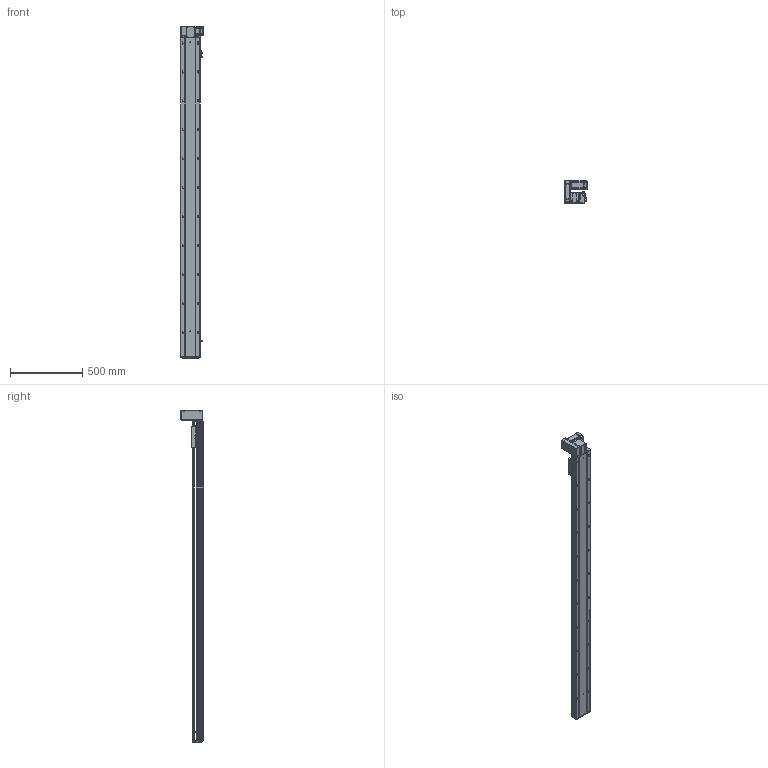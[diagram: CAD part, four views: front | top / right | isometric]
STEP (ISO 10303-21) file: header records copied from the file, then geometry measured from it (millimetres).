
FILE_DESCRIPTION (( 'STEP AP203' ), '1' );
FILE_NAME ('RY140-T-300-UL.SLDASM_1950.step', '2021-03-01T07:45:12', ( '盈信电脑' ), ( '东莞市道滘镇水果街19号' ), 'SwSTEP 2.0', 'SolidWorks 2012', '' );
FILE_SCHEMA (( 'CONFIG_CONTROL_DESIGN' ));
Length unit declared in the file: millimetre
Products named in the file (18): 滅袉蝶18-10; RY140-T翋肮謫裔啣; RY140-T萇儂欶; RY140-T-300-UL.SLDASM_1950; RY120-T蹟翐M4; 侂狟400W侜督萇儂; RY120-T主同步轮轴承压盖; 15; RY140-T翋肮祭謫盓傅釱; RY120-T肮祭湍揤踡輸1; RY140-T萇儂假蚾啣; RY120-T肮祭湍揤踡輸2; 覜茼ん672; RY140綴裔啣; RY120外置感应片(140共用）; RY140肮祭謫臏賑輸; RY140-T-300-DL倰第奻裔啣_1950; RY140-T-300-DL倰第菁釱_1950
Assembly tree (23 placements, depth 3):
  RY140-T-300-UL.SLDASM_1950
    RY140-T-300-DL倰第菁釱_1950
    RY140肮祭謫臏賑輸
    RY140-T-300-DL倰第奻裔啣_1950
    RY140綴裔啣
    覜茼ん672  x3
    RY120外置感应片(140共用）
    RY120-T肮祭湍揤踡輸2
    RY120-T肮祭湍揤踡輸1
    RY140-T翋肮祭謫盓傅釱
    RY140-T萇儂假蚾啣
    侂狟400W侜督萇儂
      15
    RY120-T主同步轮轴承压盖
    RY120-T蹟翐M4  x4
    RY140-T萇儂欶
    滅袉蝶18-10  x2
    RY140-T翋肮謫裔啣
Bounding box: 157 x 152.5 x 2296 mm (x, y, z)
Volume: 6269734 mm3; surface area: 2451875.6 mm2
Topology: 22 solids, 22 shells, 2863 faces, 7857 edges, 5000 vertices
Faces by surface type: plane 1381, cylinder 1096, cone 286, bspline 100
Entity records: 90511 total; most frequent: CARTESIAN_POINT 21969, ORIENTED_EDGE 14074, DIRECTION 13465, EDGE_CURVE 7037, VERTEX_POINT 4599, AXIS2_PLACEMENT_3D 4528, LINE 4409, VECTOR 4409
